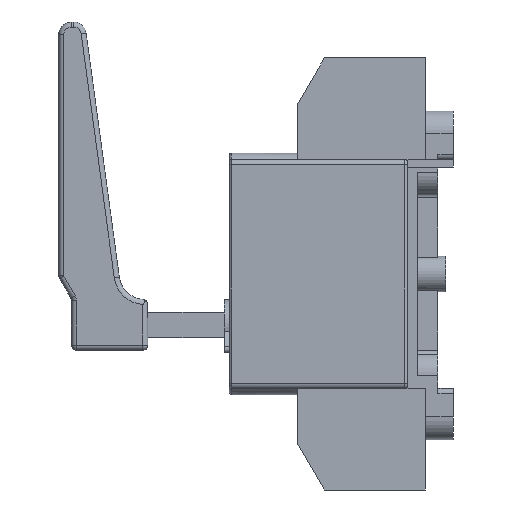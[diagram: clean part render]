
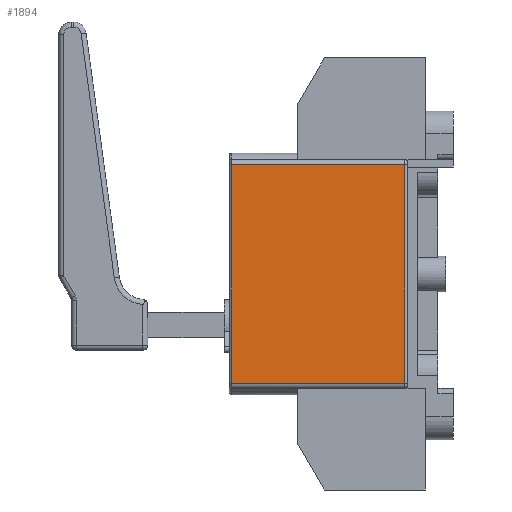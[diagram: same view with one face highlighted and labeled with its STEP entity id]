
A CAD part, left-side view. The second image highlights one B-rep face of the part: STEP entity #1894.
In plain terms, the highlighted planar face has unit normal (-1, 0, 0).
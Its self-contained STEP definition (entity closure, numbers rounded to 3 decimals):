
#608=LINE('',#10436,#1203);
#761=LINE('',#11135,#1356);
#767=LINE('',#11186,#1362);
#768=LINE('',#11188,#1363);
#1203=VECTOR('',#8373,1.);
#1356=VECTOR('',#9008,1.);
#1362=VECTOR('',#9032,1.);
#1363=VECTOR('',#9035,1.);
#1894=ADVANCED_FACE('',(#2365),#2124,.F.);
#2124=PLANE('',#7246);
#2365=FACE_OUTER_BOUND('',#2802,.T.);
#2802=EDGE_LOOP('',(#4381,#4382,#4383,#4384));
#4381=ORIENTED_EDGE('',*,*,#6226,.F.);
#4382=ORIENTED_EDGE('',*,*,#6213,.T.);
#4383=ORIENTED_EDGE('',*,*,#6227,.T.);
#4384=ORIENTED_EDGE('',*,*,#5924,.T.);
#5147=VERTEX_POINT('',#10426);
#5151=VERTEX_POINT('',#10435);
#5332=VERTEX_POINT('',#11102);
#5336=VERTEX_POINT('',#11134);
#5924=EDGE_CURVE('',#5147,#5151,#608,.T.);
#6213=EDGE_CURVE('',#5332,#5336,#761,.T.);
#6226=EDGE_CURVE('',#5332,#5151,#767,.T.);
#6227=EDGE_CURVE('',#5336,#5147,#768,.T.);
#7246=AXIS2_PLACEMENT_3D('',#11189,#9036,#9037);
#8373=DIRECTION('',(0.,0.,1.));
#9008=DIRECTION('',(0.,0.,-1.));
#9032=DIRECTION('',(0.,-1.,0.));
#9035=DIRECTION('',(0.,-1.,0.));
#9036=DIRECTION('',(1.,0.,0.));
#9037=DIRECTION('',(0.,0.,-1.));
#10426=CARTESIAN_POINT('',(-41.,1.,-43.));
#10435=CARTESIAN_POINT('',(-41.,1.,43.));
#10436=CARTESIAN_POINT('',(-41.,1.,-43.));
#11102=CARTESIAN_POINT('',(-41.,69.,43.));
#11134=CARTESIAN_POINT('',(-41.,69.,-43.));
#11135=CARTESIAN_POINT('',(-41.,69.,-43.));
#11186=CARTESIAN_POINT('',(-41.,35.,43.));
#11188=CARTESIAN_POINT('',(-41.,35.,-43.));
#11189=CARTESIAN_POINT('',(-41.,35.,-43.));
